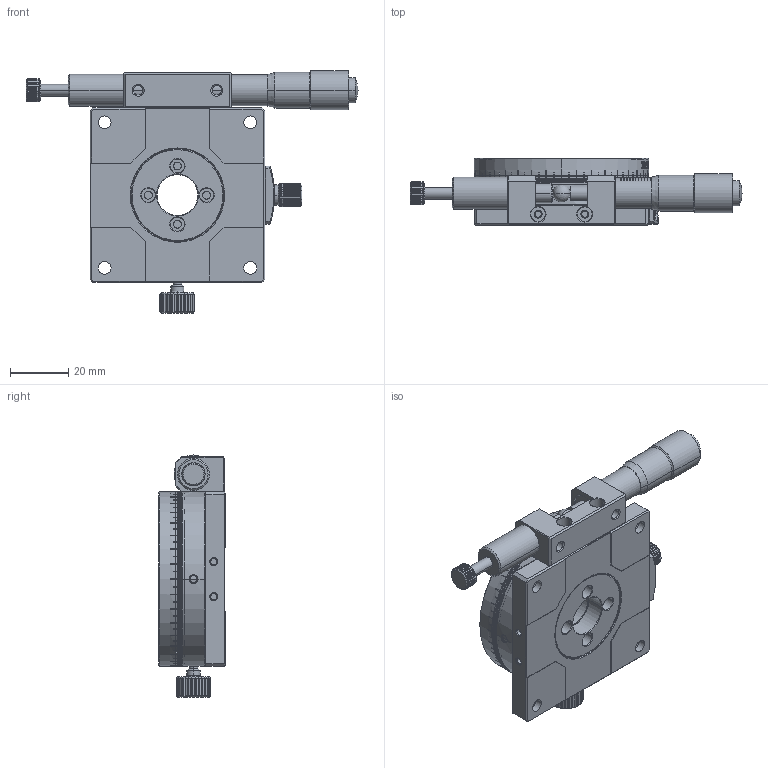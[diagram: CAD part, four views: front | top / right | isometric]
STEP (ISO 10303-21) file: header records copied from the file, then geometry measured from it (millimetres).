
FILE_DESCRIPTION((''),'2;1');
FILE_NAME('ASSY-060-R_ASM','2021-06-10T17:20:39',('windows10'),(''),'CREO PARAMETRIC BY PTC INC, 2018260','CREO PARAMETRIC BY PTC INC, 2018260','');
FILE_SCHEMA(('CONFIG_CONTROL_DESIGN'));
Products named in the file (15): BOTTOM-60; WHEEL-60; TOP-60; HOLDER-TOP-60; BRACKET-HOLDER-60; STOPPER-SUB; STOPPER-M3-8-8; WASHER-7-1D4; LEVER; HOLDER-MICROHEAD-13MM; PUSH-STICK-13MM; HOUSING-STICK-13MM; STOPPER-WHEEL-13MM; MICRO-HEAD-13-F-SJP; ASSY-060-R_ASM
Assembly tree (14 placements, depth 2):
  ASSY-060-R_ASM
    BOTTOM-60
    WHEEL-60
    TOP-60
    HOLDER-TOP-60
    BRACKET-HOLDER-60
    STOPPER-SUB
    STOPPER-M3-8-8
    WASHER-7-1D4
    LEVER
    HOLDER-MICROHEAD-13MM
    PUSH-STICK-13MM
    HOUSING-STICK-13MM
    STOPPER-WHEEL-13MM
    MICRO-HEAD-13-F-SJP
Bounding box: 114 x 23 x 83.15 mm (x, y, z)
Volume: 107949.8 mm3; surface area: 42458.9 mm2
Topology: 15 solids, 17 shells, 2989 faces, 8372 edges, 5512 vertices
Faces by surface type: plane 2108, cylinder 695, cone 154, bspline 20, torus 8, sphere 4
Entity records: 98800 total; most frequent: CARTESIAN_POINT 21808, ORIENTED_EDGE 16720, DIRECTION 15426, EDGE_CURVE 8368, VERTEX_POINT 5512, AXIS2_PLACEMENT_3D 5378, VECTOR 4670, LINE 4670
